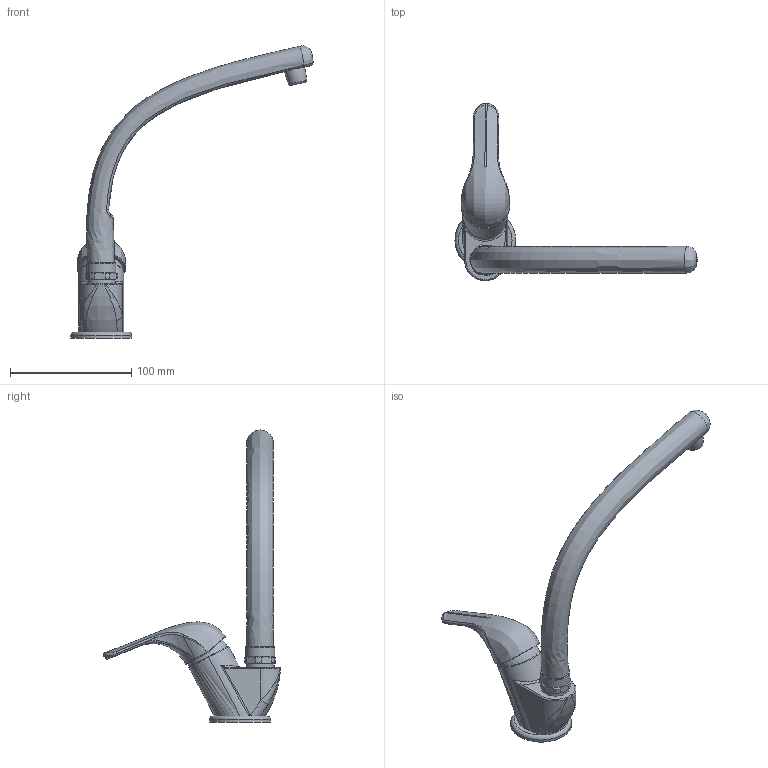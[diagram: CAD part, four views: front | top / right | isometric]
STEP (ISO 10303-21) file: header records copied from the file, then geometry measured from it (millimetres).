
FILE_DESCRIPTION(('STEP AP214'), '1');
FILE_NAME('76CR571KM', '', ('UNSPECIFIED'), ('UNSPECIFIED'), 'ASCON STEP Converter 1.6', 'ASCON Math Kernel', '');
FILE_SCHEMA(('AUTOMOTIVE_DESIGN { 1 0 10303 214 3 1 1}'));
Length unit declared in the file: millimetre
Assembly tree (2 placements, depth 2):
  (unnamed)
    (unnamed)
    (unnamed)
Bounding box: 199.35 x 145.91 x 240.65 mm (x, y, z)
Volume: 37094.2 mm3; surface area: 42095 mm2
Topology: 1 solids, 2 shells, 115 faces, 280 edges, 172 vertices
Faces by surface type: bspline 57, cylinder 23, plane 20, torus 11, cone 2, extrusion 2
Full cylindrical faces by diameter (mm): 23 x1, 24 x1, 50 x1
Entity records: 14607 total; most frequent: CARTESIAN_POINT 11468, ORIENTED_EDGE 520, EDGE_CURVE 261, DIRECTION 251, B_SPLINE_CURVE_WITH_KNOTS 168, VERTEX_POINT 168, EDGE_LOOP 130, COLOUR_RGB 116
